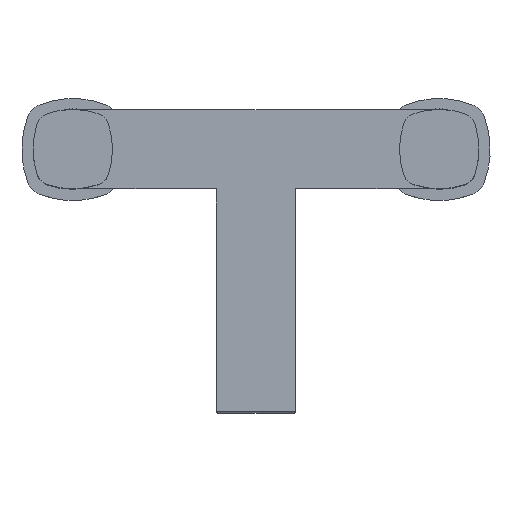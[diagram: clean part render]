
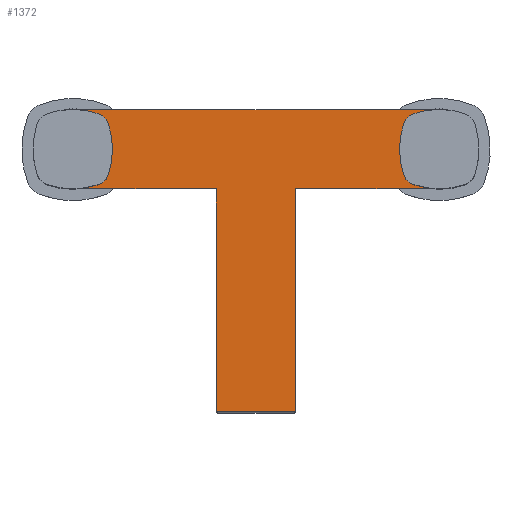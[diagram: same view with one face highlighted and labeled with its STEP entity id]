
A CAD part, top view. The second image highlights one B-rep face of the part: STEP entity #1372.
In plain terms, the highlighted planar face has unit normal (0, 0, 1).
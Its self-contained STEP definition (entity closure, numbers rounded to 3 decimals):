
#398 = VERTEX_POINT('',#399);
#399 = CARTESIAN_POINT('',(-90.,19.5,
    99.));
#405 = EDGE_CURVE('',#398,#406,#408,.T.);
#406 = VERTEX_POINT('',#407);
#407 = CARTESIAN_POINT('',(90.,19.5,
    99.));
#408 = LINE('',#409,#410);
#409 = CARTESIAN_POINT('',(90.,19.5,
    99.));
#410 = VECTOR('',#411,1.);
#411 = DIRECTION('',(1.,0.,0.));
#438 = VERTEX_POINT('',#439);
#439 = CARTESIAN_POINT('',(90.,-19.5,
    99.));
#445 = EDGE_CURVE('',#438,#446,#448,.T.);
#446 = VERTEX_POINT('',#447);
#447 = CARTESIAN_POINT('',(19.5,-19.5,
    99.));
#448 = LINE('',#449,#450);
#449 = CARTESIAN_POINT('',(90.,-19.5,
    99.));
#450 = VECTOR('',#451,1.);
#451 = DIRECTION('',(-1.,0.,0.));
#467 = EDGE_CURVE('',#468,#470,#472,.T.);
#468 = VERTEX_POINT('',#469);
#469 = CARTESIAN_POINT('',(-19.5,-19.5,
    99.));
#470 = VERTEX_POINT('',#471);
#471 = CARTESIAN_POINT('',(-90.,-19.5,
    99.));
#472 = LINE('',#473,#474);
#473 = CARTESIAN_POINT('',(-19.5,-19.5,
    99.));
#474 = VECTOR('',#475,1.);
#475 = DIRECTION('',(-1.,0.,0.));
#767 = EDGE_CURVE('',#768,#770,#772,.T.);
#768 = VERTEX_POINT('',#769);
#769 = CARTESIAN_POINT('',(-107.465,12.433,
    99.));
#770 = VERTEX_POINT('',#771);
#771 = CARTESIAN_POINT('',(-107.465,-12.433,
    99.));
#772 = CIRCLE('',#773,39.);
#773 = AXIS2_PLACEMENT_3D('',#774,#775,#776);
#774 = CARTESIAN_POINT('',(-70.5,0.,
    99.));
#775 = DIRECTION('',(0.,0.,1.));
#776 = DIRECTION('',(-0.928,-0.373,0.));
#809 = EDGE_CURVE('',#770,#810,#812,.T.);
#810 = VERTEX_POINT('',#811);
#811 = CARTESIAN_POINT('',(-102.433,-17.465,
    99.));
#812 = CIRCLE('',#813,8.);
#813 = AXIS2_PLACEMENT_3D('',#814,#815,#816);
#814 = CARTESIAN_POINT('',(-99.883,-9.883,
    99.));
#815 = DIRECTION('',(0.,0.,1.));
#816 = DIRECTION('',(1.,0.,-0.));
#860 = EDGE_CURVE('',#470,#810,#861,.T.);
#861 = CIRCLE('',#862,39.);
#862 = AXIS2_PLACEMENT_3D('',#863,#864,#865);
#863 = CARTESIAN_POINT('',(-90.,19.5,
    99.));
#864 = DIRECTION('',(0.,0.,-1.));
#865 = DIRECTION('',(-0.373,-0.928,-0.));
#955 = VERTEX_POINT('',#956);
#956 = CARTESIAN_POINT('',(-102.433,17.465,
    99.));
#962 = EDGE_CURVE('',#955,#398,#963,.T.);
#963 = CIRCLE('',#964,39.);
#964 = AXIS2_PLACEMENT_3D('',#965,#966,#967);
#965 = CARTESIAN_POINT('',(-90.,-19.5,
    99.));
#966 = DIRECTION('',(0.,0.,-1.));
#967 = DIRECTION('',(-0.373,0.928,0.));
#987 = EDGE_CURVE('',#955,#768,#988,.T.);
#988 = CIRCLE('',#989,8.);
#989 = AXIS2_PLACEMENT_3D('',#990,#991,#992);
#990 = CARTESIAN_POINT('',(-99.883,9.883,
    99.));
#991 = DIRECTION('',(0.,0.,1.));
#992 = DIRECTION('',(1.,0.,-0.));
#1011 = EDGE_CURVE('',#1012,#1014,#1016,.T.);
#1012 = VERTEX_POINT('',#1013);
#1013 = CARTESIAN_POINT('',(107.465,-12.433,
    99.));
#1014 = VERTEX_POINT('',#1015);
#1015 = CARTESIAN_POINT('',(107.465,12.433,
    99.));
#1016 = CIRCLE('',#1017,39.);
#1017 = AXIS2_PLACEMENT_3D('',#1018,#1019,#1020);
#1018 = CARTESIAN_POINT('',(70.5,0.,
    99.));
#1019 = DIRECTION('',(0.,0.,1.));
#1020 = DIRECTION('',(0.928,-0.373,0.));
#1053 = EDGE_CURVE('',#1014,#1054,#1056,.T.);
#1054 = VERTEX_POINT('',#1055);
#1055 = CARTESIAN_POINT('',(102.433,17.465,
    99.));
#1056 = CIRCLE('',#1057,8.);
#1057 = AXIS2_PLACEMENT_3D('',#1058,#1059,#1060);
#1058 = CARTESIAN_POINT('',(99.883,9.883,
    99.));
#1059 = DIRECTION('',(0.,0.,1.));
#1060 = DIRECTION('',(-1.,0.,0.));
#1104 = EDGE_CURVE('',#406,#1054,#1105,.T.);
#1105 = CIRCLE('',#1106,39.);
#1106 = AXIS2_PLACEMENT_3D('',#1107,#1108,#1109);
#1107 = CARTESIAN_POINT('',(90.,-19.5,
    99.));
#1108 = DIRECTION('',(0.,0.,-1.));
#1109 = DIRECTION('',(0.373,0.928,0.));
#1199 = VERTEX_POINT('',#1200);
#1200 = CARTESIAN_POINT('',(102.433,-17.465,
    99.));
#1206 = EDGE_CURVE('',#1199,#438,#1207,.T.);
#1207 = CIRCLE('',#1208,39.);
#1208 = AXIS2_PLACEMENT_3D('',#1209,#1210,#1211);
#1209 = CARTESIAN_POINT('',(90.,19.5,
    99.));
#1210 = DIRECTION('',(0.,0.,-1.));
#1211 = DIRECTION('',(0.373,-0.928,0.));
#1231 = EDGE_CURVE('',#1199,#1012,#1232,.T.);
#1232 = CIRCLE('',#1233,8.);
#1233 = AXIS2_PLACEMENT_3D('',#1234,#1235,#1236);
#1234 = CARTESIAN_POINT('',(99.883,-9.883,
    99.));
#1235 = DIRECTION('',(0.,0.,1.));
#1236 = DIRECTION('',(-1.,0.,0.));
#1317 = VERTEX_POINT('',#1318);
#1318 = CARTESIAN_POINT('',(-19.5,-128.8,
    99.));
#1324 = EDGE_CURVE('',#1317,#468,#1325,.T.);
#1325 = LINE('',#1326,#1327);
#1326 = CARTESIAN_POINT('',(-19.5,-128.8,
    99.));
#1327 = VECTOR('',#1328,1.);
#1328 = DIRECTION('',(0.,1.,0.));
#1346 = VERTEX_POINT('',#1347);
#1347 = CARTESIAN_POINT('',(19.5,-128.8,
    99.));
#1362 = EDGE_CURVE('',#446,#1346,#1363,.T.);
#1363 = LINE('',#1364,#1365);
#1364 = CARTESIAN_POINT('',(19.5,-128.8,
    99.));
#1365 = VECTOR('',#1366,1.);
#1366 = DIRECTION('',(0.,-1.,0.));
#1372 = ADVANCED_FACE('',(#1373,#1396,#1416),#1436,.T.);
#1373 = FACE_BOUND('',#1374,.T.);
#1374 = EDGE_LOOP('',(#1375,#1381,#1382,#1383,#1384,#1385,#1386,#1387,
    #1388,#1389,#1390,#1391,#1392,#1393,#1394,#1395));
#1375 = ORIENTED_EDGE('',*,*,#1376,.T.);
#1376 = EDGE_CURVE('',#1317,#1346,#1377,.T.);
#1377 = LINE('',#1378,#1379);
#1378 = CARTESIAN_POINT('',(-19.5,-128.8,
    99.));
#1379 = VECTOR('',#1380,1.);
#1380 = DIRECTION('',(1.,0.,0.));
#1381 = ORIENTED_EDGE('',*,*,#1362,.F.);
#1382 = ORIENTED_EDGE('',*,*,#445,.F.);
#1383 = ORIENTED_EDGE('',*,*,#1206,.F.);
#1384 = ORIENTED_EDGE('',*,*,#1231,.T.);
#1385 = ORIENTED_EDGE('',*,*,#1011,.T.);
#1386 = ORIENTED_EDGE('',*,*,#1053,.T.);
#1387 = ORIENTED_EDGE('',*,*,#1104,.F.);
#1388 = ORIENTED_EDGE('',*,*,#405,.F.);
#1389 = ORIENTED_EDGE('',*,*,#962,.F.);
#1390 = ORIENTED_EDGE('',*,*,#987,.T.);
#1391 = ORIENTED_EDGE('',*,*,#767,.T.);
#1392 = ORIENTED_EDGE('',*,*,#809,.T.);
#1393 = ORIENTED_EDGE('',*,*,#860,.F.);
#1394 = ORIENTED_EDGE('',*,*,#467,.F.);
#1395 = ORIENTED_EDGE('',*,*,#1324,.F.);
#1396 = FACE_BOUND('',#1397,.T.);
#1397 = EDGE_LOOP('',(#1398,#1409));
#1398 = ORIENTED_EDGE('',*,*,#1399,.T.);
#1399 = EDGE_CURVE('',#1400,#1402,#1404,.T.);
#1400 = VERTEX_POINT('',#1401);
#1401 = CARTESIAN_POINT('',(-76.,0.,
    99.));
#1402 = VERTEX_POINT('',#1403);
#1403 = CARTESIAN_POINT('',(-104.,0.,
    99.));
#1404 = CIRCLE('',#1405,14.);
#1405 = AXIS2_PLACEMENT_3D('',#1406,#1407,#1408);
#1406 = CARTESIAN_POINT('',(-90.,0.,
    99.));
#1407 = DIRECTION('',(0.,0.,-1.));
#1408 = DIRECTION('',(1.,0.,0.));
#1409 = ORIENTED_EDGE('',*,*,#1410,.T.);
#1410 = EDGE_CURVE('',#1402,#1400,#1411,.T.);
#1411 = CIRCLE('',#1412,14.);
#1412 = AXIS2_PLACEMENT_3D('',#1413,#1414,#1415);
#1413 = CARTESIAN_POINT('',(-90.,0.,
    99.));
#1414 = DIRECTION('',(0.,0.,-1.));
#1415 = DIRECTION('',(1.,0.,0.));
#1416 = FACE_BOUND('',#1417,.T.);
#1417 = EDGE_LOOP('',(#1418,#1429));
#1418 = ORIENTED_EDGE('',*,*,#1419,.T.);
#1419 = EDGE_CURVE('',#1420,#1422,#1424,.T.);
#1420 = VERTEX_POINT('',#1421);
#1421 = CARTESIAN_POINT('',(76.,0.,
    99.));
#1422 = VERTEX_POINT('',#1423);
#1423 = CARTESIAN_POINT('',(104.,0.,
    99.));
#1424 = CIRCLE('',#1425,14.);
#1425 = AXIS2_PLACEMENT_3D('',#1426,#1427,#1428);
#1426 = CARTESIAN_POINT('',(90.,0.,
    99.));
#1427 = DIRECTION('',(0.,0.,-1.));
#1428 = DIRECTION('',(-1.,0.,0.));
#1429 = ORIENTED_EDGE('',*,*,#1430,.T.);
#1430 = EDGE_CURVE('',#1422,#1420,#1431,.T.);
#1431 = CIRCLE('',#1432,14.);
#1432 = AXIS2_PLACEMENT_3D('',#1433,#1434,#1435);
#1433 = CARTESIAN_POINT('',(90.,0.,
    99.));
#1434 = DIRECTION('',(0.,0.,-1.));
#1435 = DIRECTION('',(-1.,0.,0.));
#1436 = PLANE('',#1437);
#1437 = AXIS2_PLACEMENT_3D('',#1438,#1439,#1440);
#1438 = CARTESIAN_POINT('',(19.5,-129.6,
    99.));
#1439 = DIRECTION('',(0.,0.,1.));
#1440 = DIRECTION('',(0.,1.,0.));
